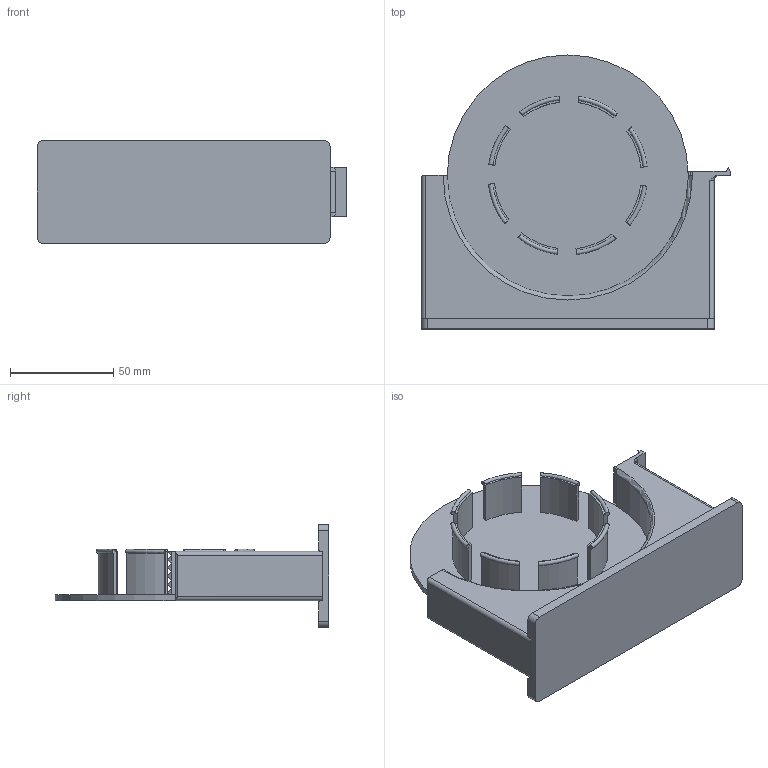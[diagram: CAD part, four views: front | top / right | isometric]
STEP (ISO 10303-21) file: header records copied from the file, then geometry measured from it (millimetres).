
FILE_DESCRIPTION(/* description */ (''),/* implementation_level */ '2;1');
FILE_NAME(/* name */ 'Masking Tape Dispenser.step',/* time_stamp */ '2025-12-02T09:43:30-05:00',/* author */ (''),/* organization */ (''),/* preprocessor_version */ 'ST-DEVELOPER v20.1',/* originating_system */ 'Autodesk Translation Framework v14.21.0.0',/* authorisation */ '');
FILE_SCHEMA (('AUTOMOTIVE_DESIGN { 1 0 10303 214 3 1 1 }'));
Length unit declared in the file: millimetre
Products named in the file (2): Masking Tape Dispenser; Tape Dispenser
Assembly tree (1 placements, depth 2):
  Masking Tape Dispenser
    Tape Dispenser
Bounding box: 150 x 133 x 50 mm (x, y, z)
Volume: 183079 mm3; surface area: 67254.1 mm2
Topology: 2 solids, 2 shells, 116 faces, 278 edges, 174 vertices
Faces by surface type: plane 72, cylinder 33, torus 11
Entity records: 3810 total; most frequent: CARTESIAN_POINT 1049, DIRECTION 568, ORIENTED_EDGE 556, EDGE_CURVE 278, AXIS2_PLACEMENT_3D 193, LINE 182, VECTOR 182, VERTEX_POINT 174
